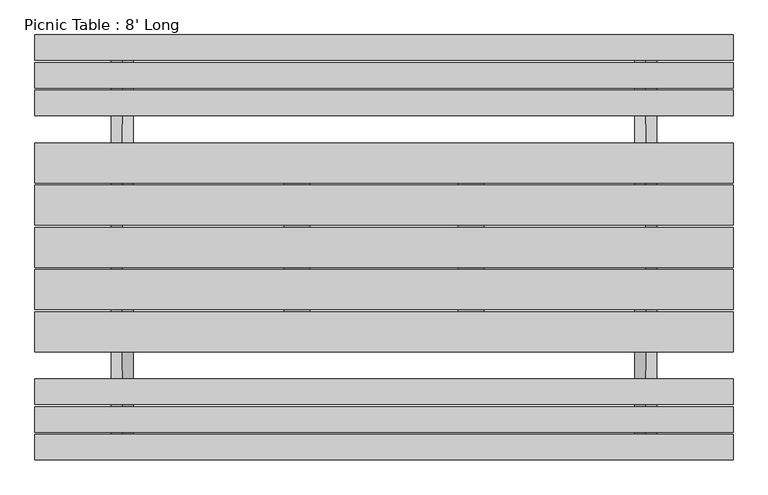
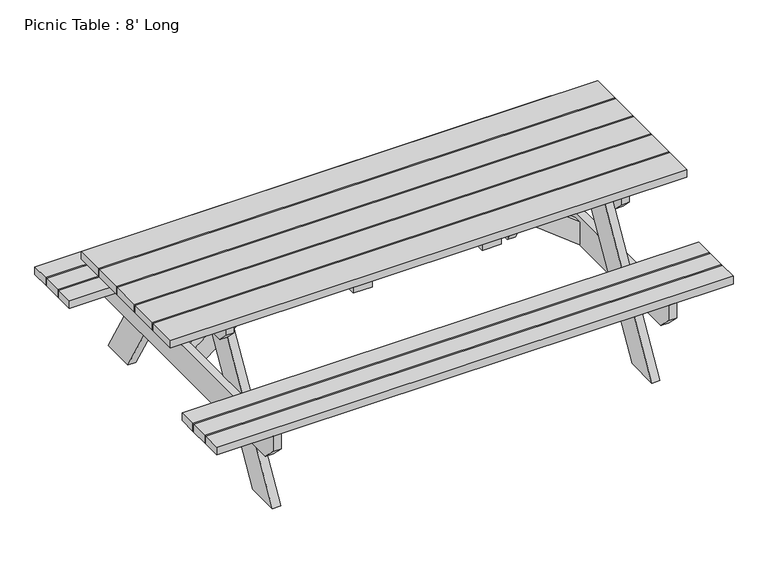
"""IFC4 building model written with IfcOpenShell, lengths in millimetres: furniture geometry, Picnic Table : 8' Long."""

from ifc_helpers import new_model, si_unit, frame, origin, place, context, project, spatial, polyline, outline, extrude, source, transform, mapped, element, save


def picnic_table_8_long_d58fb6b3(model_context):
    return source(origin(), model_context, "Body", "SweptSolid", [
        extrude(outline(polyline([(1219.2, 742.95), (1219.2, 654.05), (-1219.2, 654.05), (-1219.2, 742.95), (1219.2, 742.95)])), frame((0.0, 0.0, 419.1), z_axis=(0.0, 0.0, 1.0), x_axis=(1.0, 0.0, 0.0)), (0.0, 0.0, 1.0), 38.1),
        extrude(outline(polyline([(1219.2, 646.1125), (1219.2, 557.2125), (-1219.2, 557.2125), (-1219.2, 646.1125), (1219.2, 646.1125)])), frame((0.0, 0.0, 419.1), z_axis=(0.0, 0.0, 1.0), x_axis=(1.0, 0.0, 0.0)), (0.0, 0.0, 1.0), 38.1),
        extrude(outline(polyline([(1219.2, 549.275), (1219.2, 460.375), (-1219.2, 460.375), (-1219.2, 549.275), (1219.2, 549.275)])), frame((0.0, 0.0, 419.1), z_axis=(0.0, 0.0, 1.0), x_axis=(1.0, 0.0, 0.0)), (0.0, 0.0, 1.0), 38.1),
        extrude(outline(polyline([(1219.2, -654.05), (1219.2, -742.95), (-1219.2, -742.95), (-1219.2, -654.05), (1219.2, -654.05)])), frame((0.0, 0.0, 419.1), z_axis=(0.0, 0.0, 1.0), x_axis=(1.0, 0.0, 0.0)), (0.0, 0.0, 1.0), 38.1),
        extrude(outline(polyline([(1219.2, -557.2125), (1219.2, -646.1125), (-1219.2, -646.1125), (-1219.2, -557.2125), (1219.2, -557.2125)])), frame((0.0, 0.0, 419.1), z_axis=(0.0, 0.0, 1.0), x_axis=(1.0, 0.0, 0.0)), (0.0, 0.0, 1.0), 38.1),
        extrude(outline(polyline([(1219.2, -460.375), (1219.2, -549.275), (-1219.2, -549.275), (-1219.2, -460.375), (1219.2, -460.375)])), frame((0.0, 0.0, 419.1), z_axis=(0.0, 0.0, 1.0), x_axis=(1.0, 0.0, 0.0)), (0.0, 0.0, 1.0), 38.1),
        extrude(outline(polyline([(-92.6883348, 723.9), (-510.6321947, 0.0), (-671.9438599, 0.0), (-254.0, 723.9), (-92.6883348, 723.9)])), frame((-914.4, 0.0, 0.0), z_axis=(1.0, 0.0, 0.0), x_axis=(0.0, 1.0, 0.0)), (0.0, 0.0, 1.0), 38.1),
        extrude(outline(polyline([(-355.6, 723.9), (355.6, 723.9), (355.6, 685.8), (304.8, 635.0), (-304.8, 635.0), (-355.6, 685.8), (-355.6, 723.9)])), frame((-952.5, 0.0, 0.0), z_axis=(1.0, 0.0, 0.0), x_axis=(0.0, 1.0, 0.0)), (0.0, 0.0, 1.0), 38.1),
        extrude(outline(polyline([(-742.95, 419.1), (742.95, 419.1), (742.95, 342.9), (679.45, 279.4), (-679.45, 279.4), (-742.95, 342.9), (-742.95, 419.1)])), frame((-952.5, 0.0, 0.0), z_axis=(1.0, 0.0, 0.0), x_axis=(0.0, 1.0, 0.0)), (0.0, 0.0, 1.0), 38.1),
        extrude(outline(polyline([(92.6883348, 723.9), (254.0, 723.9), (671.9438599, 0.0), (510.6321947, 0.0), (92.6883348, 723.9)])), frame((-914.4, 0.0, 0.0), z_axis=(1.0, 0.0, 0.0), x_axis=(0.0, 1.0, 0.0)), (0.0, 0.0, 1.0), 38.1),
        extrude(outline(polyline([(-92.6883348, 723.9), (-510.6321947, 0.0), (-671.9438599, 0.0), (-254.0, 723.9), (-92.6883348, 723.9)])), frame((876.3, 0.0, 0.0), z_axis=(1.0, 0.0, 0.0), x_axis=(0.0, 1.0, 0.0)), (0.0, 0.0, 1.0), 38.1),
        extrude(outline(polyline([(-355.6, 723.9), (355.6, 723.9), (355.6, 685.8), (304.8, 635.0), (-304.8, 635.0), (-355.6, 685.8), (-355.6, 723.9)])), frame((914.4, 0.0, 0.0), z_axis=(1.0, 0.0, 0.0), x_axis=(0.0, 1.0, 0.0)), (0.0, 0.0, 1.0), 38.1),
        extrude(outline(polyline([(-742.95, 419.1), (742.95, 419.1), (742.95, 342.9), (679.45, 279.4), (-679.45, 279.4), (-742.95, 342.9), (-742.95, 419.1)])), frame((914.4, 0.0, 0.0), z_axis=(1.0, 0.0, 0.0), x_axis=(0.0, 1.0, 0.0)), (0.0, 0.0, 1.0), 38.1),
        extrude(outline(polyline([(92.6883348, 723.9), (254.0, 723.9), (671.9438599, 0.0), (510.6321947, 0.0), (92.6883348, 723.9)])), frame((876.3, 0.0, 0.0), z_axis=(1.0, 0.0, 0.0), x_axis=(0.0, 1.0, 0.0)), (0.0, 0.0, 1.0), 38.1),
        extrude(outline(polyline([(723.9, 348.9628837), (282.1321084, 914.4), (394.9478277, 914.4), (723.9, 493.3604197), (723.9, 348.9628837)])), frame((0.0, -19.05, 0.0), z_axis=(0.0, 1.0, 0.0), x_axis=(0.0, 0.0, 1.0)), (0.0, 0.0, 1.0), 38.1),
        extrude(outline(polyline([(723.9, -348.9628837), (723.9, -493.3604197), (394.9478277, -914.4), (282.1321084, -914.4), (723.9, -348.9628837)])), frame((0.0, -19.05, 0.0), z_axis=(0.0, 1.0, 0.0), x_axis=(0.0, 0.0, 1.0)), (0.0, 0.0, 1.0), 38.1),
        extrude(outline(polyline([(1219.2, 365.125), (1219.2, 225.425), (-1219.2, 225.425), (-1219.2, 365.125), (1219.2, 365.125)])), frame((0.0, 0.0, 723.9), z_axis=(0.0, 0.0, 1.0), x_axis=(1.0, 0.0, 0.0)), (0.0, 0.0, 1.0), 38.1),
        extrude(outline(polyline([(1219.2, 69.85), (1219.2, -69.85), (-1219.2, -69.85), (-1219.2, 69.85), (1219.2, 69.85)])), frame((0.0, 0.0, 723.9), z_axis=(0.0, 0.0, 1.0), x_axis=(1.0, 0.0, 0.0)), (0.0, 0.0, 1.0), 38.1),
        extrude(outline(polyline([(1219.2, -225.425), (1219.2, -365.125), (-1219.2, -365.125), (-1219.2, -225.425), (1219.2, -225.425)])), frame((0.0, 0.0, 723.9), z_axis=(0.0, 0.0, 1.0), x_axis=(1.0, 0.0, 0.0)), (0.0, 0.0, 1.0), 38.1),
        extrude(outline(polyline([(1219.2, 217.4875), (1219.2, 77.7875), (-1219.2, 77.7875), (-1219.2, 217.4875), (1219.2, 217.4875)])), frame((0.0, 0.0, 723.9), z_axis=(0.0, 0.0, 1.0), x_axis=(1.0, 0.0, 0.0)), (0.0, 0.0, 1.0), 38.1),
        extrude(outline(polyline([(1219.2, -77.7875), (1219.2, -217.4875), (-1219.2, -217.4875), (-1219.2, -77.7875), (1219.2, -77.7875)])), frame((0.0, 0.0, 723.9), z_axis=(0.0, 0.0, 1.0), x_axis=(1.0, 0.0, 0.0)), (0.0, 0.0, 1.0), 38.1),
        extrude(outline(polyline([(-260.0628837, -352.425), (-348.9628837, -352.425), (-348.9628837, 352.425), (-260.0628837, 352.425), (-260.0628837, -352.425)])), frame((0.0, 0.0, 685.8), z_axis=(0.0, 0.0, 1.0), x_axis=(1.0, 0.0, 0.0)), (0.0, 0.0, 1.0), 38.1),
        extrude(outline(polyline([(348.9628837, -352.425), (260.0628837, -352.425), (260.0628837, 352.425), (348.9628837, 352.425), (348.9628837, -352.425)])), frame((0.0, 0.0, 685.8), z_axis=(0.0, 0.0, 1.0), x_axis=(1.0, 0.0, 0.0)), (0.0, 0.0, 1.0), 38.1),
    ])


if __name__ == "__main__":
    model = new_model("IFC4")
    model_context = context("Model", 3, world=origin())
    ifc_project = project(units=[si_unit("LENGTHUNIT", "METRE", prefix="MILLI")], contexts=[model_context])
    site = spatial("IfcSite", under=ifc_project)
    building = spatial("IfcBuilding", under=site)
    placement = place(None, origin())
    picnic_table_8_long_shape = picnic_table_8_long_d58fb6b3(model_context)
    element("IfcFurniture", 1, ObjectType="Picnic Table : 8' Long", at=placement, inside=building, context=model_context, shape_type="MappedRepresentation", body=[
        mapped(picnic_table_8_long_shape, transform((0.0, 0.0, 0.0), x_axis=(1.0, 0.0, 0.0), y_axis=(0.0, 1.0, 0.0), z_axis=(0.0, 0.0, 1.0))),
    ])
    save(model, "model.ifc")
